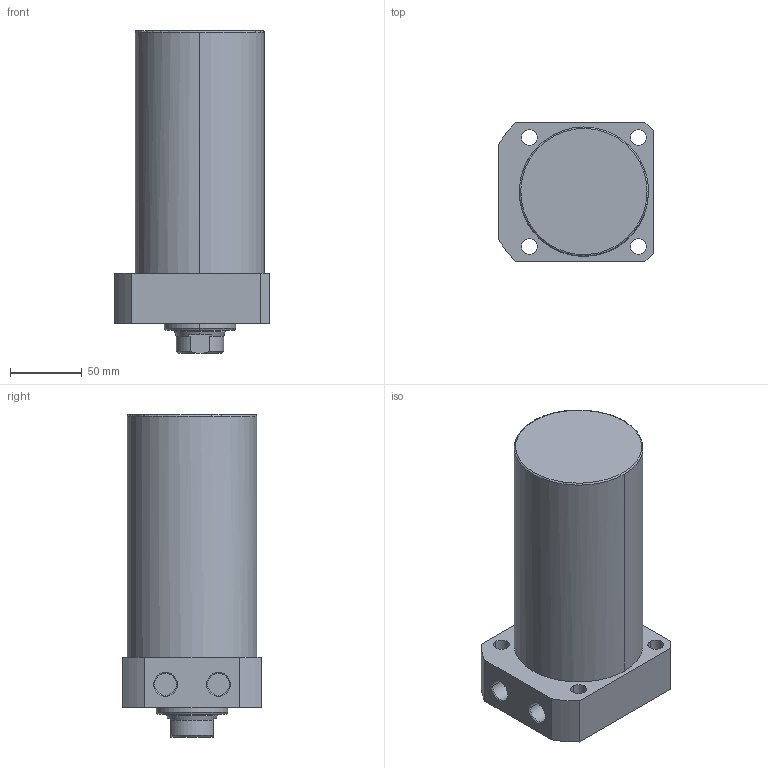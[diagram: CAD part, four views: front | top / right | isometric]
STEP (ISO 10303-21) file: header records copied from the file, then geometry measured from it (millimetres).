
FILE_DESCRIPTION((' '),'2;1');
FILE_NAME( 'TLLR-090CA-125.STEP.stp', '2025-10-24T16:35:18', (' '), ('--- Datakit www.datakit.com---'), ' Datakit CrossCadWare V2024.1 Dec 21 2023', 'Mastercam 2025', ' ');
FILE_SCHEMA(('AUTOMOTIVE_DESIGN { 1 0 10303 214 1 1 1 1 }'));
Length unit declared in the file: millimetre
Products named in the file (1): TLLR-090CA-125
Bounding box: 108 x 97 x 225 mm (x, y, z)
Volume: 1424037 mm3; surface area: 92871.1 mm2
Topology: 1 solids, 1 shells, 63 faces, 177 edges, 122 vertices
Faces by surface type: cylinder 28, plane 19, cone 14, torus 2
Entity records: 2172 total; most frequent: CARTESIAN_POINT 409, DIRECTION 400, ORIENTED_EDGE 350, EDGE_CURVE 175, AXIS2_PLACEMENT_3D 169, VERTEX_POINT 122, CIRCLE 105, EDGE_LOOP 79
